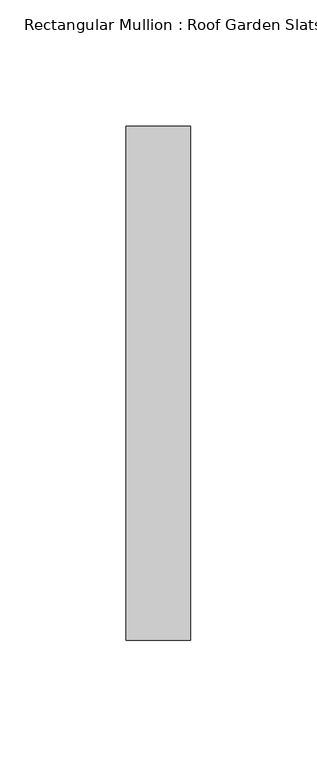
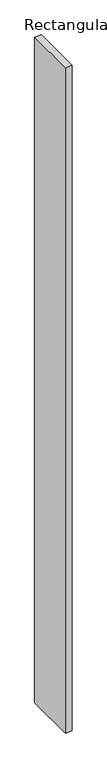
"""IFC4 building model written with IfcOpenShell, lengths in millimetres: member geometry, Rectangular Mullion : Roof Garden Slats."""

import ifcopenshell
import ifcopenshell.guid

model = None  # the IFC model being written
_history = None  # IfcOwnerHistory: only IFC2X3 demands one
_inside = {}  # id of a spatial element -> (the spatial element, [elements in it])
_under = {}  # id of a project, library or spatial element -> (it, [spatial elements below it])
_declared = {}  # id of a project -> (the project, [libraries it declares])
_typed = {}  # id of a type object -> (the type object, [elements of that type])
_made_of = {}  # id of a material, layer set ... -> (it, [elements and type objects made of it])


def new_model(schema):
    """Start an empty IFC model of exactly this schema.

    Asked for "IFC4X3", IfcOpenShell would pick the latest addendum, in which some entities
    have other attributes; the version numbers below select the first issue.
    IFC2X3 requires an IfcOwnerHistory on every rooted entity: one is made here for all.
    """
    global model, _history
    if schema == "IFC4X3":
        model = ifcopenshell.file(schema_version=(4, 3, 0, 0))
    else:
        model = ifcopenshell.file(schema=schema)
    _inside.clear()
    _under.clear()
    _declared.clear()
    _typed.clear()
    _made_of.clear()
    _history = None
    if model.schema == "IFC2X3":
        org = make("IfcOrganization", Name="unknown")
        user = make(
            "IfcPersonAndOrganization",
            ThePerson=make("IfcPerson", FamilyName="unknown"),
            TheOrganization=org,
        )
        app = make(
            "IfcApplication",
            ApplicationDeveloper=org,
            Version="unknown",
            ApplicationFullName="unknown",
            ApplicationIdentifier="unknown",
        )
        _history = make(
            "IfcOwnerHistory",
            OwningUser=user,
            OwningApplication=app,
            ChangeAction="ADDED",
            CreationDate=0,
        )
    return model


def make(cls, **values):
    """One entity of the class cls with the attributes given. An attribute that is None is left unset."""
    return model.create_entity(
        cls, **{name: value for name, value in values.items() if value is not None}
    )


def rooted(cls, **values):
    """An entity with a GlobalId (a new one), such as an element, a storey or a relation."""
    return make(cls, GlobalId=ifcopenshell.guid.new(), OwnerHistory=_history, **values)


def si_unit(unit_type, name, prefix=None):
    """IfcSIUnit, for example si_unit("LENGTHUNIT", "METRE", prefix="MILLI")."""
    return make("IfcSIUnit", UnitType=unit_type, Prefix=prefix, Name=name)


def assignment(units):
    """IfcUnitAssignment: the units of a project."""
    return None if units is None else make("IfcUnitAssignment", Units=units)


def point(xyz):
    """IfcCartesianPoint."""
    return None if xyz is None else make("IfcCartesianPoint", Coordinates=xyz)


def direction(xyz):
    """IfcDirection."""
    return None if xyz is None else make("IfcDirection", DirectionRatios=xyz)


def frame(location, z_axis=None, x_axis=None):
    """IfcAxis2Placement3D, a coordinate frame: its origin and axes. An axis left out is left unset."""
    return make(
        "IfcAxis2Placement3D",
        Location=point(location),
        Axis=direction(z_axis),
        RefDirection=direction(x_axis),
    )


def origin():
    """The frame at (0, 0, 0) with its axes left unset."""
    return frame((0.0, 0.0, 0.0))


def place(relative_to, where):
    """IfcLocalPlacement: puts the frame where relative to a parent placement (None: the world)."""
    return make(
        "IfcLocalPlacement", PlacementRelTo=relative_to, RelativePlacement=where
    )


def context(
    kind, dimensions, precision=None, world=None, true_north=None, identifier=None
):
    """IfcGeometricRepresentationContext, for example the 3D "Model" context."""
    return make(
        "IfcGeometricRepresentationContext",
        ContextIdentifier=identifier,
        ContextType=kind,
        CoordinateSpaceDimension=dimensions,
        Precision=precision,
        WorldCoordinateSystem=world,
        TrueNorth=true_north,
    )


def project(units=None, contexts=None):
    """IfcProject with its units and contexts."""
    return rooted(
        "IfcProject",
        Name="project",
        RepresentationContexts=contexts,
        UnitsInContext=assignment(units),
    )


def spatial(cls, under=None, at=None, **own):
    """A site, building, storey or space (cls), placed at a placement, below another one or the project."""
    s = rooted(cls, ObjectPlacement=at, **own)
    if under is not None:
        _under.setdefault(under.id(), (under, []))[1].append(s)
    return s


def polyline(points):
    """IfcPolyline through the points."""
    return make("IfcPolyline", Points=[point(p) for p in points])


def outline(outer, holes=None, kind="AREA"):
    """IfcArbitraryClosedProfileDef: a profile drawn as a closed curve; with holes, ...WithVoids."""
    if holes is None:
        return make("IfcArbitraryClosedProfileDef", ProfileType=kind, OuterCurve=outer)
    return make(
        "IfcArbitraryProfileDefWithVoids",
        ProfileType=kind,
        OuterCurve=outer,
        InnerCurves=holes,
    )


def extrude(swept, where, along, depth):
    """IfcExtrudedAreaSolid: the profile swept, set in the frame where, extruded along a direction by depth."""
    return make(
        "IfcExtrudedAreaSolid",
        SweptArea=swept,
        Position=where,
        ExtrudedDirection=direction(along),
        Depth=depth,
    )


def shape(context_of_items, identifier, shape_type, items):
    """IfcShapeRepresentation: the items that make up one representation, for example the "Body"."""
    return make(
        "IfcShapeRepresentation",
        ContextOfItems=context_of_items,
        RepresentationIdentifier=identifier,
        RepresentationType=shape_type,
        Items=items,
    )


def source(mapping_origin, context_of_items, identifier, shape_type, items):
    """IfcRepresentationMap: a shape defined once, which mapped items show again and again."""
    return make(
        "IfcRepresentationMap",
        MappingOrigin=mapping_origin,
        MappedRepresentation=shape(context_of_items, identifier, shape_type, items),
    )


def transform(
    local_origin,
    x_axis=None,
    y_axis=None,
    z_axis=None,
    scale=None,
    scale2=None,
    scale3=None,
    uniform=True,
):
    """IfcCartesianTransformationOperator3D, or its non-uniform kind. x_axis, y_axis, z_axis: its Axis1, 2, 3."""
    if uniform:
        return make(
            "IfcCartesianTransformationOperator3D",
            Axis1=direction(x_axis),
            Axis2=direction(y_axis),
            LocalOrigin=point(local_origin),
            Scale=scale,
            Axis3=direction(z_axis),
        )
    return make(
        "IfcCartesianTransformationOperator3DnonUniform",
        Axis1=direction(x_axis),
        Axis2=direction(y_axis),
        LocalOrigin=point(local_origin),
        Scale=scale,
        Axis3=direction(z_axis),
        Scale2=scale2,
        Scale3=scale3,
    )


def mapped(mapping_source, mapping_target):
    """IfcMappedItem: shows the shape of a source again, moved by a transform."""
    return make(
        "IfcMappedItem", MappingSource=mapping_source, MappingTarget=mapping_target
    )


def made_of(thing, what):
    """Note that an element or type object is made of a material, layer set ...; save() writes the relation."""
    if what is not None:
        _made_of.setdefault(what.id(), (what, []))[1].append(thing)
    return thing


def element(
    cls,
    number,
    at=None,
    inside=None,
    cuts=None,
    type_object=None,
    material=None,
    context=None,
    identifier="Body",
    shape_type=None,
    held_by="IfcProductDefinitionShape",
    body=None,
    shapes=None,
    **own,
):
    """One element of the class cls, such as IfcWall. Its Tag is "e" and its number.

    at: its placement. inside: the storey or other place that contains it. cuts: it is an
    opening in that element (IfcRelVoidsElement). A single representation is given by context,
    identifier, shape_type and body (its items); several are given by shapes. held_by: the class
    of the entity that holds the representations. save() writes the other relations.
    """
    e = rooted(cls, Tag="e%d" % number, ObjectPlacement=at, **own)
    if body is not None:
        shapes = [shape(context, identifier, shape_type, body)]
    if shapes is not None:
        e.Representation = make(held_by, Representations=shapes)
    if inside is not None:
        _inside.setdefault(inside.id(), (inside, []))[1].append(e)
    if cuts is not None:
        rooted(
            "IfcRelVoidsElement", RelatingBuildingElement=cuts, RelatedOpeningElement=e
        )
    if type_object is not None:
        _typed.setdefault(type_object.id(), (type_object, []))[1].append(e)
    return made_of(e, material)


def aggregate(whole, parts):
    """IfcRelAggregates: a whole, such as a stair, and the parts it consists of."""
    return rooted("IfcRelAggregates", RelatingObject=whole, RelatedObjects=parts)


def save(model, path):
    """Write the relations noted so far, then the file.

    IfcRelAggregates (storeys below a building ...), IfcRelContainedInSpatialStructure (elements
    in a storey), IfcRelDefinesByType, IfcRelAssociatesMaterial and IfcRelDeclares: one each for
    every whole, place, type object, material and project.
    """
    for whole, parts in _under.values():
        aggregate(whole, parts)
    for where, things in _inside.values():
        rooted(
            "IfcRelContainedInSpatialStructure",
            RelatedElements=things,
            RelatingStructure=where,
        )
    for kind, things in _typed.values():
        rooted("IfcRelDefinesByType", RelatedObjects=things, RelatingType=kind)
    for what, things in _made_of.values():
        rooted("IfcRelAssociatesMaterial", RelatedObjects=things, RelatingMaterial=what)
    for by, libraries in _declared.values():
        rooted("IfcRelDeclares", RelatingContext=by, RelatedDefinitions=libraries)
    model.write(path)


def rectangular_mullion_roof_garden_slats_90e8307d(model_context):
    return source(origin(), model_context, "Body", "SweptSolid", [
        extrude(outline(polyline([(12.7, 139.7), (12.7, -63.5), (-12.7, -63.5), (-12.7, 139.7), (12.7, 139.7)])), frame((0.0, 0.0, -2690.2197047), z_axis=(0.0, 0.0, 1.0), x_axis=(1.0, 0.0, 0.0)), (0.0, 0.0, 1.0), 2690.2197047),
    ])


if __name__ == "__main__":
    model = new_model("IFC4")
    model_context = context("Model", 3, world=origin())
    ifc_project = project(units=[si_unit("LENGTHUNIT", "METRE", prefix="MILLI")], contexts=[model_context])
    site = spatial("IfcSite", under=ifc_project)
    building = spatial("IfcBuilding", under=site)
    placement = place(None, origin())
    rectangular_mullion_roof_garden_slats_shape = rectangular_mullion_roof_garden_slats_90e8307d(model_context)
    element("IfcMember", 1, ObjectType="Rectangular Mullion : Roof Garden Slats", at=placement, inside=building, context=model_context, shape_type="MappedRepresentation", body=[
        mapped(rectangular_mullion_roof_garden_slats_shape, transform((0.0, 0.0, 0.0), x_axis=(1.0, 0.0, 0.0), y_axis=(0.0, 1.0, 0.0), z_axis=(0.0, 0.0, 1.0))),
    ])
    save(model, "model.ifc")
